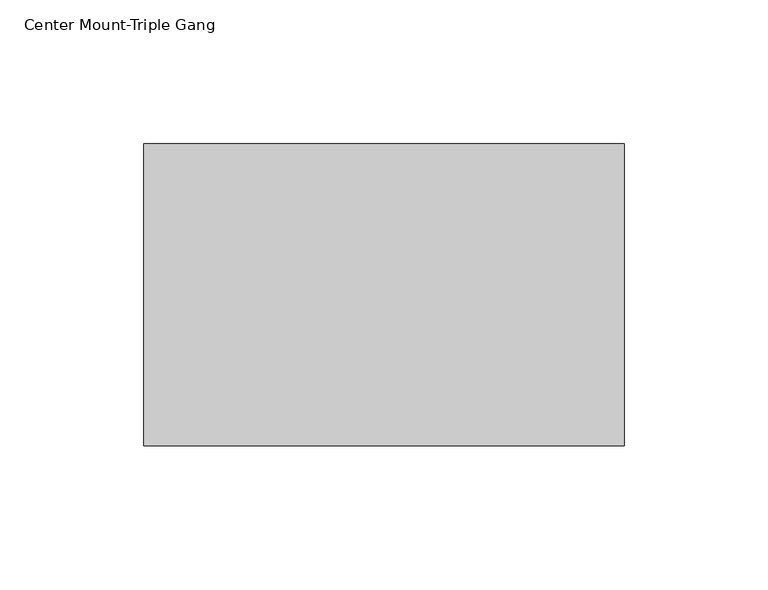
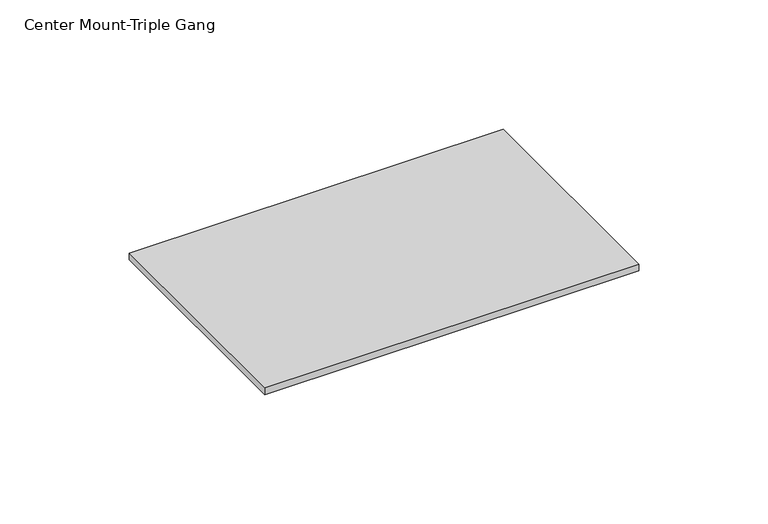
"""IFC4 building model written with IfcOpenShell, lengths in millimetres: proxy geometry, Device_Plate-Evolution_Poke_Thru_8AT_Series-Wiremold : Center Mount-Triple Gang."""

from ifc_helpers import new_model, si_unit, origin, origin_with_axes, place, context, project, spatial, polyline, outline, extrude, source, transform, mapped, element, save


def center_mount_triple_gang_763fbe48(model_context):
    return source(origin(), model_context, "Body", "SweptSolid", [
        extrude(outline(polyline([(83.3628, 52.3875), (83.3628, -52.3875), (-83.3628, -52.3875), (-83.3628, 52.3875), (83.3628, 52.3875)])), origin_with_axes(), (0.0, 0.0, 1.0), 3.175),
    ])


if __name__ == "__main__":
    model = new_model("IFC4")
    model_context = context("Model", 3, world=origin())
    ifc_project = project(units=[si_unit("LENGTHUNIT", "METRE", prefix="MILLI")], contexts=[model_context])
    site = spatial("IfcSite", under=ifc_project)
    building = spatial("IfcBuilding", under=site)
    placement = place(None, origin())
    center_mount_triple_gang_shape = center_mount_triple_gang_763fbe48(model_context)
    element("IfcBuildingElementProxy", 1, Name="Device_Plate-Evolution_Poke_Thru_8AT_Series-Wiremold : Center Mount-Triple Gang", ObjectType="Device_Plate-Evolution_Poke_Thru_8AT_Series-Wiremold : Center Mount-Triple Gang", at=placement, inside=building, context=model_context, shape_type="MappedRepresentation", body=[
        mapped(center_mount_triple_gang_shape, transform((0.0, 0.0, 0.0), x_axis=(1.0, 0.0, 0.0), y_axis=(0.0, 1.0, 0.0), z_axis=(0.0, 0.0, 1.0))),
    ])
    save(model, "model.ifc")
